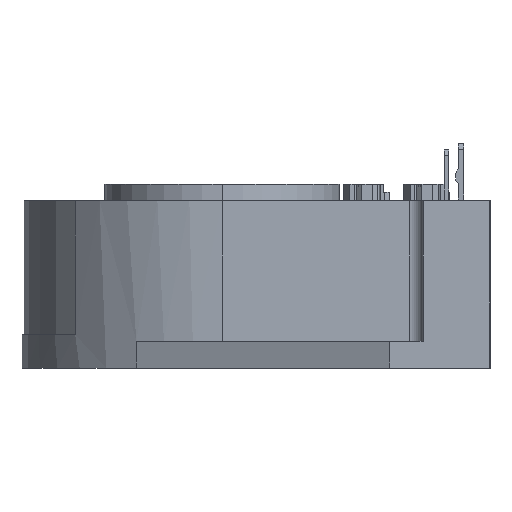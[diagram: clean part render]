
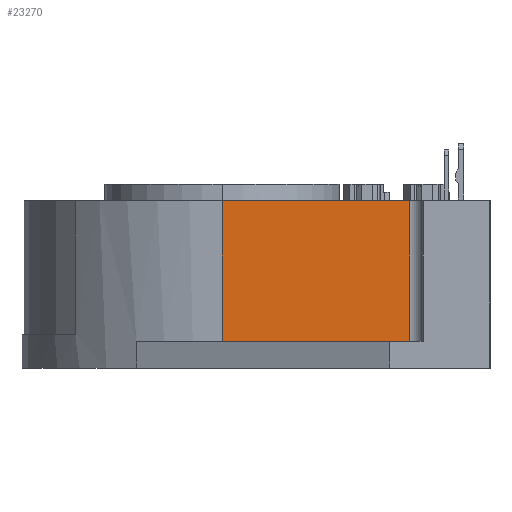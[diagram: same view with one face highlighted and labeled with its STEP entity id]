
A CAD part, left-side view. The second image highlights one B-rep face of the part: STEP entity #23270.
In plain terms, the highlighted planar face has unit normal (-1, 0, 0).
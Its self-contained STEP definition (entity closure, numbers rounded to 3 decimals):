
#17450=CARTESIAN_POINT('',(-30.,0.,25.));
#17460=VERTEX_POINT('',#17450);
#17490=CARTESIAN_POINT('',(-30.,0.,4.));
#17500=DIRECTION('',(0.,0.,1.));
#17510=VECTOR('',#17500,1.);
#17520=LINE('',#17490,#17510);
#17530=CARTESIAN_POINT('',(-30.,0.,4.));
#17540=VERTEX_POINT('',#17530);
#17550=EDGE_CURVE('',#17540,#17460,#17520,.T.);
#20820=CARTESIAN_POINT('',(-30.,-28.,25.));
#20830=VERTEX_POINT('',#20820);
#20860=CARTESIAN_POINT('',(-30.,-28.,25.));
#20870=DIRECTION('',(0.,1.,0.));
#20880=VECTOR('',#20870,1.);
#20890=LINE('',#20860,#20880);
#20900=EDGE_CURVE('',#20830,#17460,#20890,.T.);
#22670=CARTESIAN_POINT('',(-30.,-28.,4.));
#22680=VERTEX_POINT('',#22670);
#22800=CARTESIAN_POINT('',(-30.,-28.,4.));
#22810=DIRECTION('',(0.,1.,0.));
#22820=VECTOR('',#22810,1.);
#22830=LINE('',#22800,#22820);
#22840=EDGE_CURVE('',#22680,#17540,#22830,.T.);
#23110=CARTESIAN_POINT('',(-30.,-28.,25.));
#23120=DIRECTION('',(1.,0.,0.));
#23130=DIRECTION('',(0.,-1.,0.));
#23140=AXIS2_PLACEMENT_3D('',#23110,#23120,#23130);
#23150=PLANE('',#23140);
#23160=ORIENTED_EDGE('',*,*,#22840,.F.);
#23170=ORIENTED_EDGE('',*,*,#17550,.F.);
#23180=ORIENTED_EDGE('',*,*,#20900,.T.);
#23190=CARTESIAN_POINT('',(-30.,-28.,25.));
#23200=DIRECTION('',(0.,0.,-1.));
#23210=VECTOR('',#23200,1.);
#23220=LINE('',#23190,#23210);
#23230=EDGE_CURVE('',#20830,#22680,#23220,.T.);
#23240=ORIENTED_EDGE('',*,*,#23230,.F.);
#23250=EDGE_LOOP('',(#23240,#23180,#23170,#23160));
#23260=FACE_OUTER_BOUND('',#23250,.T.);
#23270=ADVANCED_FACE('',(#23260),#23150,.F.);
